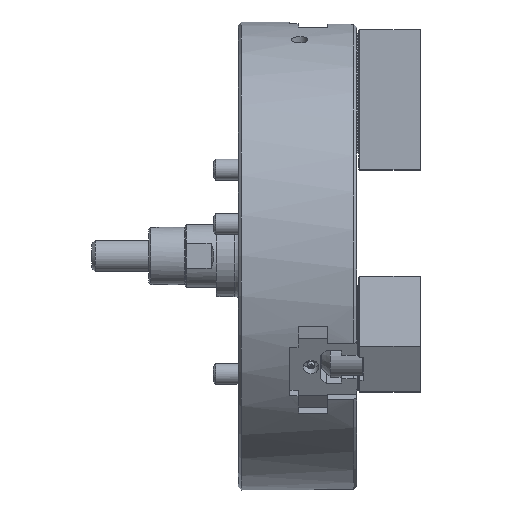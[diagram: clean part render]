
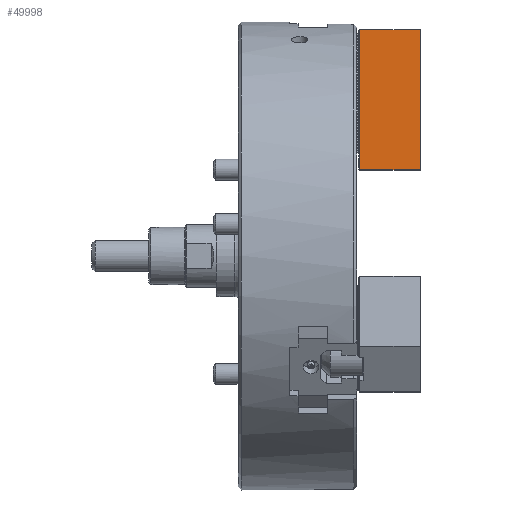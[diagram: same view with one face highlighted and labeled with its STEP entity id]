
A CAD part, top view. The second image highlights one B-rep face of the part: STEP entity #49998.
In plain terms, the highlighted planar face has unit normal (0, 0, 1).
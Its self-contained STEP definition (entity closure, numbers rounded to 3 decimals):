
#2621 = CARTESIAN_POINT ( 'NONE',  ( -135., 60., 25. ) ) ;
#5839 = VECTOR ( 'NONE', #57408, 1000. ) ;
#7982 = ORIENTED_EDGE ( 'NONE', *, *, #73369, .T. ) ;
#8440 = VECTOR ( 'NONE', #18580, 1000. ) ;
#8482 = LINE ( 'NONE', #13776, #78914 ) ;
#10505 = EDGE_CURVE ( 'NONE', #54360, #65437, #23219, .T. ) ;
#12646 = EDGE_CURVE ( 'NONE', #73099, #54360, #8482, .T. ) ;
#13776 = CARTESIAN_POINT ( 'NONE',  ( -135., 60., 25. ) ) ;
#17578 = ORIENTED_EDGE ( 'NONE', *, *, #32999, .T. ) ;
#18079 = CARTESIAN_POINT ( 'NONE',  ( 0., 1.4, 25. ) ) ;
#18580 = DIRECTION ( 'NONE',  ( 1., 0., 0. ) ) ;
#21145 = DIRECTION ( 'NONE',  ( 1., 0., 0. ) ) ;
#22219 = VERTEX_POINT ( 'NONE', #69857 ) ;
#23219 = LINE ( 'NONE', #18079, #29796 ) ;
#25146 = DIRECTION ( 'NONE',  ( 0., -1., 0. ) ) ;
#28131 = AXIS2_PLACEMENT_3D ( 'NONE', #49716, #91228, #21145 ) ;
#29796 = VECTOR ( 'NONE', #25146, 1000. ) ;
#32999 = EDGE_CURVE ( 'NONE', #73099, #22219, #43276, .T. ) ;
#42456 = CARTESIAN_POINT ( 'NONE',  ( 0., 1.4, 25. ) ) ;
#43276 = LINE ( 'NONE', #51833, #5839 ) ;
#49716 = CARTESIAN_POINT ( 'NONE',  ( -135., 1.4, 25. ) ) ;
#49874 = ORIENTED_EDGE ( 'NONE', *, *, #10505, .F. ) ;
#49998 = ADVANCED_FACE ( 'NONE', ( #72359 ), #90631, .T. ) ;
#51668 = ORIENTED_EDGE ( 'NONE', *, *, #12646, .F. ) ;
#51833 = CARTESIAN_POINT ( 'NONE',  ( -135., 1.4, 25. ) ) ;
#54360 = VERTEX_POINT ( 'NONE', #81389 ) ;
#57408 = DIRECTION ( 'NONE',  ( 0., -1., 0. ) ) ;
#65437 = VERTEX_POINT ( 'NONE', #42456 ) ;
#69857 = CARTESIAN_POINT ( 'NONE',  ( -135., 1.4, 25. ) ) ;
#72359 = FACE_OUTER_BOUND ( 'NONE', #85594, .T. ) ;
#73099 = VERTEX_POINT ( 'NONE', #2621 ) ;
#73369 = EDGE_CURVE ( 'NONE', #22219, #65437, #85483, .T. ) ;
#78914 = VECTOR ( 'NONE', #84491, 1000. ) ;
#81389 = CARTESIAN_POINT ( 'NONE',  ( 0., 60., 25. ) ) ;
#83128 = CARTESIAN_POINT ( 'NONE',  ( -135., 1.4, 25. ) ) ;
#84491 = DIRECTION ( 'NONE',  ( 1., 0., 0. ) ) ;
#85483 = LINE ( 'NONE', #83128, #8440 ) ;
#85594 = EDGE_LOOP ( 'NONE', ( #49874, #51668, #17578, #7982 ) ) ;
#90631 = PLANE ( 'NONE',  #28131 ) ;
#91228 = DIRECTION ( 'NONE',  ( 0., 0., 1. ) ) ;
